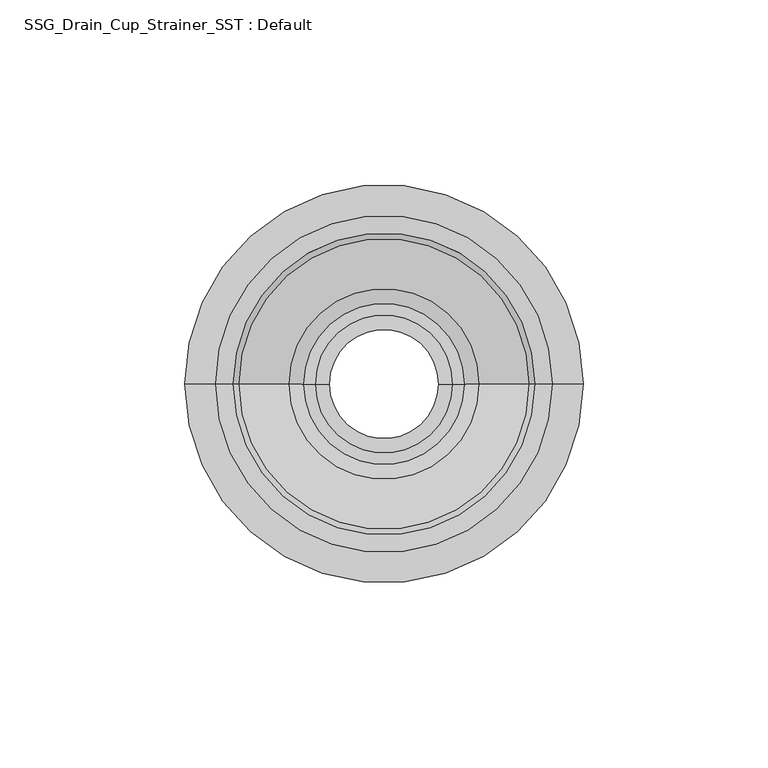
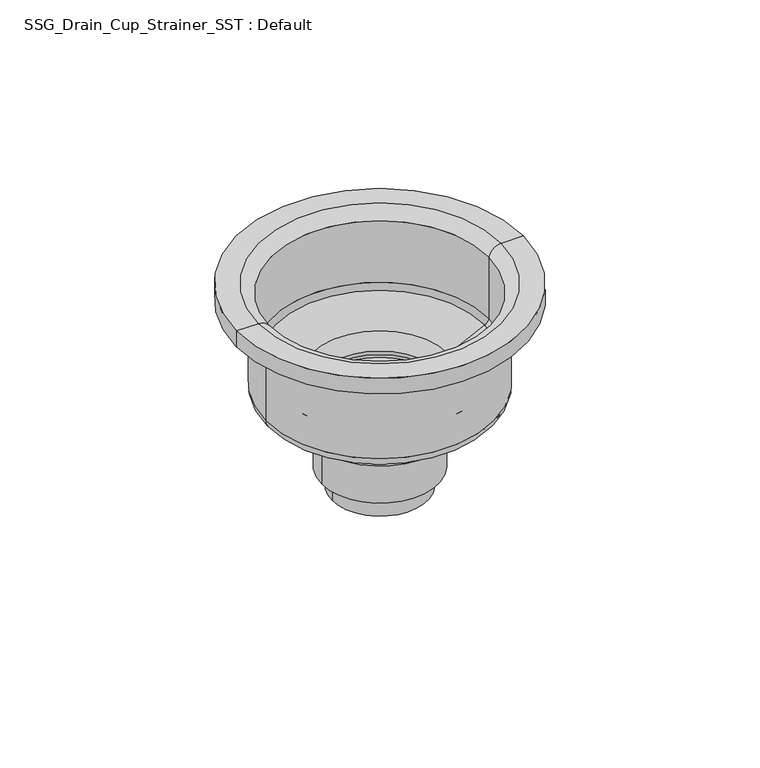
"""IFC4 building model written with IfcOpenShell, lengths in millimetres: flow terminal geometry, SSG_Drain_Cup_Strainer_SST : Default."""

from ifc_helpers import new_model, si_unit, point, frame, origin, place, context, project, spatial, polyline, circle_curve, ellipse_curve, trimmed, source, transform, mapped, element, save
from ifc_brep_helpers import plane_surface, cylinder_surface, revolved_surface, advanced_brep


def ssg_drain_cup_strainer_sst_default_97fc0a7e(model_context):
    return source(origin(), model_context, "Body", "AdvancedBrep", [
        advanced_brep(
        [(-53.8461499, 0.0, -149.6468631), (53.8461499, 0.0, -149.6468631), (53.8461499, 0.0, -155.8928957), (-53.8461499, 0.0, -155.8928957), (-45.6201532, 0.0, -149.6468631), (45.6201532, 0.0, -149.6468631), (-40.9039151, 0.0, -153.3759816), (40.9039151, 0.0, -153.3759816), (-40.9039151, 0.0, -177.8346117), (40.9039151, 0.0, -177.8346117), (-39.3309117, 0.0, -179.8842938), (39.3309117, 0.0, -179.8842938), (-25.7680813, 0.0, -186.4993282), (25.7680813, 0.0, -186.4993282), (-21.8196029, 0.0, -191.7639661), (21.8196029, 0.0, -191.7639661), (-40.0303474, 0.0, -193.1664988), (40.0303474, 0.0, -193.1664988), (31.8617554, 0.0, -193.1664988), (-31.8617554, 0.0, -193.1664988), (-42.8625, 0.0, -189.2413271), (42.8625, 0.0, -189.2413271), (-42.8625, 0.0, -155.8928957), (42.8625, 0.0, -155.8928957), (-21.8196029, 0.0, -193.1664988), (21.8196029, 0.0, -193.1664988), (-21.8196029, 0.0, -194.2053454), (21.8196029, 0.0, -194.2053454), (-18.6446029, 0.0, -194.2053454), (18.6446029, 0.0, -194.2053454), (-18.6446029, 0.0, -201.1455416), (18.6446029, 0.0, -201.1455416), (-18.6446029, 0.0, -218.4679678), (18.6446029, 0.0, -218.4679678), (-14.7920705, 0.0, -218.4679678), (14.7920705, 0.0, -218.4679678), (-14.7920705, 0.0, -229.5231197), (14.7920705, 0.0, -229.5231197), (-17.9670705, 0.0, -229.5231197), (17.9670705, 0.0, -229.5231197), (-17.9670705, 0.0, -221.6429678), (17.9670705, 0.0, -221.6429678), (-21.8196029, 0.0, -221.6429678), (21.8196029, 0.0, -221.6429678), (-21.8196029, 0.0, -204.3205416), (21.8196029, 0.0, -204.3205416), (-25.5117554, 0.0, -204.3205416), (25.5117554, 0.0, -204.3205416), (-25.5117554, 0.0, -197.9705416), (25.5117554, 0.0, -197.9705416), (-31.8617554, 0.0, -197.9705416), (31.8617554, 0.0, -197.9705416)],
        [
            (0, 1, circle_curve(frame((0.0, 0.0, -149.6468631), z_axis=(0.0, 0.0, -1.0), x_axis=(1.0, 0.0, 0.0)), 53.8461499)),
            (1, 2),
            (2, 3, circle_curve(frame((0.0, 0.0, -155.8928957), z_axis=(0.0, 0.0, 1.0), x_axis=(1.0, 0.0, 0.0)), 53.8461499)),
            (3, 0),
            (1, 0, circle_curve(frame((0.0, 0.0, -149.6468631), z_axis=(0.0, 0.0, -1.0), x_axis=(1.0, 0.0, 0.0)), 53.8461499)),
            (3, 2, circle_curve(frame((0.0, 0.0, -155.8928957), z_axis=(0.0, 0.0, 1.0), x_axis=(1.0, 0.0, 0.0)), 53.8461499)),
            (4, 5, circle_curve(frame((0.0, 0.0, -149.6468631), z_axis=(0.0, 0.0, -1.0), x_axis=(1.0, 0.0, 0.0)), 45.6201532)),
            (5, 1),
            (0, 4),
            (5, 4, circle_curve(frame((0.0, 0.0, -149.6468631), z_axis=(0.0, 0.0, -1.0), x_axis=(1.0, 0.0, 0.0)), 45.6201532)),
            (6, 7, circle_curve(frame((0.0, 0.0, -153.3759816), z_axis=(0.0, 0.0, -1.0), x_axis=(1.0, 0.0, 0.0)), 40.9039151)),
            (7, 5, circle_curve(frame((45.6201532, 0.0, -154.4937494), z_axis=(0.0, 1.0, 0.0), x_axis=(1.0, 0.0, 0.0)), 4.8468863)),
            (4, 6, circle_curve(frame((-45.6201532, 0.0, -154.4937494), z_axis=(0.0, 1.0, 0.0), x_axis=(-1.0, 0.0, 0.0)), 4.8468863)),
            (7, 6, circle_curve(frame((0.0, 0.0, -153.3759816), z_axis=(0.0, 0.0, -1.0), x_axis=(1.0, 0.0, 0.0)), 40.9039151)),
            (8, 9, circle_curve(frame((0.0, 0.0, -177.8346117), z_axis=(0.0, 0.0, -1.0), x_axis=(1.0, 0.0, 0.0)), 40.9039151)),
            (9, 7),
            (6, 8),
            (9, 8, circle_curve(frame((0.0, 0.0, -177.8346117), z_axis=(0.0, 0.0, -1.0), x_axis=(1.0, 0.0, 0.0)), 40.9039151)),
            (10, 11, circle_curve(frame((0.0, 0.0, -179.8842938), z_axis=(0.0, 0.0, -1.0), x_axis=(1.0, 0.0, 0.0)), 39.3309117)),
            (11, 9, circle_curve(frame((38.7820074, 0.0, -177.8346117), z_axis=(0.0, -1.0, 0.0), x_axis=(1.0, 0.0, 0.0)), 2.1219078)),
            (8, 10, circle_curve(frame((-38.7820074, 0.0, -177.8346117), z_axis=(0.0, -1.0, 0.0), x_axis=(-1.0, 0.0, 0.0)), 2.1219078)),
            (11, 10, circle_curve(frame((0.0, 0.0, -179.8842938), z_axis=(0.0, 0.0, -1.0), x_axis=(1.0, 0.0, 0.0)), 39.3309117)),
            (12, 13, circle_curve(frame((0.0, 0.0, -186.4993282), z_axis=(0.0, 0.0, -1.0), x_axis=(1.0, 0.0, 0.0)), 25.7680813)),
            (13, 11),
            (10, 12),
            (13, 12, circle_curve(frame((0.0, 0.0, -186.4993282), z_axis=(0.0, 0.0, -1.0), x_axis=(1.0, 0.0, 0.0)), 25.7680813)),
            (14, 15, circle_curve(frame((0.0, 0.0, -191.7639661), z_axis=(0.0, 0.0, -1.0), x_axis=(1.0, 0.0, 0.0)), 21.8196029)),
            (15, 13, circle_curve(frame((28.9311868, 0.0, -192.9846557), z_axis=(0.0, 1.0, 0.0), x_axis=(1.0, 0.0, 0.0)), 7.215588)),
            (12, 14, circle_curve(frame((-28.9311868, 0.0, -192.9846557), z_axis=(0.0, 1.0, 0.0), x_axis=(-1.0, 0.0, 0.0)), 7.215588)),
            (15, 14, circle_curve(frame((0.0, 0.0, -191.7639661), z_axis=(0.0, 0.0, -1.0), x_axis=(1.0, 0.0, 0.0)), 21.8196029)),
            (16, 17, circle_curve(frame((0.0, 0.0, -193.1664988), z_axis=(0.0, 0.0, -1.0), x_axis=(1.0, 0.0, 0.0)), 40.0303474)),
            (17, 18),
            (18, 19, circle_curve(frame((0.0, 0.0, -193.1664988), z_axis=(0.0, 0.0, 1.0), x_axis=(1.0, 0.0, 0.0)), 31.8617554)),
            (19, 16),
            (17, 16, circle_curve(frame((0.0, 0.0, -193.1664988), z_axis=(0.0, 0.0, -1.0), x_axis=(1.0, 0.0, 0.0)), 40.0303474)),
            (19, 18, circle_curve(frame((0.0, 0.0, -193.1664988), z_axis=(0.0, 0.0, 1.0), x_axis=(1.0, 0.0, 0.0)), 31.8617554)),
            (20, 21, circle_curve(frame((0.0, 0.0, -189.2413271), z_axis=(0.0, 0.0, -1.0), x_axis=(1.0, 0.0, 0.0)), 42.8625)),
            (21, 17, circle_curve(frame((38.7264126, 0.0, -189.2413271), z_axis=(0.0, 1.0, 0.0), x_axis=(1.0, 0.0, 0.0)), 4.1360874)),
            (16, 20, circle_curve(frame((-38.7264126, 0.0, -189.2413271), z_axis=(0.0, 1.0, 0.0), x_axis=(-1.0, 0.0, 0.0)), 4.1360874)),
            (21, 20, circle_curve(frame((0.0, 0.0, -189.2413271), z_axis=(0.0, 0.0, -1.0), x_axis=(1.0, 0.0, 0.0)), 42.8625)),
            (22, 23, circle_curve(frame((0.0, 0.0, -155.8928957), z_axis=(0.0, 0.0, -1.0), x_axis=(1.0, 0.0, 0.0)), 42.8625)),
            (23, 21),
            (20, 22),
            (23, 22, circle_curve(frame((0.0, 0.0, -155.8928957), z_axis=(0.0, 0.0, -1.0), x_axis=(1.0, 0.0, 0.0)), 42.8625)),
            (2, 23),
            (22, 3),
            (24, 25, circle_curve(frame((0.0, 0.0, -193.1664988), z_axis=(0.0, 0.0, -1.0), x_axis=(1.0, 0.0, 0.0)), 21.8196029)),
            (25, 15),
            (14, 24),
            (25, 24, circle_curve(frame((0.0, 0.0, -193.1664988), z_axis=(0.0, 0.0, -1.0), x_axis=(1.0, 0.0, 0.0)), 21.8196029)),
            (26, 27, circle_curve(frame((0.0, 0.0, -194.2053454), z_axis=(0.0, 0.0, -1.0), x_axis=(1.0, 0.0, 0.0)), 21.8196029)),
            (27, 25),
            (24, 26),
            (27, 26, circle_curve(frame((0.0, 0.0, -194.2053454), z_axis=(0.0, 0.0, -1.0), x_axis=(1.0, 0.0, 0.0)), 21.8196029)),
            (28, 29, circle_curve(frame((0.0, 0.0, -194.2053454), z_axis=(0.0, 0.0, -1.0), x_axis=(1.0, 0.0, 0.0)), 18.6446029)),
            (29, 27),
            (26, 28),
            (29, 28, circle_curve(frame((0.0, 0.0, -194.2053454), z_axis=(0.0, 0.0, -1.0), x_axis=(1.0, 0.0, 0.0)), 18.6446029)),
            (30, 31, circle_curve(frame((0.0, 0.0, -201.1455416), z_axis=(0.0, 0.0, -1.0), x_axis=(1.0, 0.0, 0.0)), 18.6446029)),
            (31, 29),
            (28, 30),
            (31, 30, circle_curve(frame((0.0, 0.0, -201.1455416), z_axis=(0.0, 0.0, -1.0), x_axis=(1.0, 0.0, 0.0)), 18.6446029)),
            (32, 33, circle_curve(frame((0.0, 0.0, -218.4679678), z_axis=(0.0, 0.0, -1.0), x_axis=(1.0, 0.0, 0.0)), 18.6446029)),
            (33, 31),
            (30, 32),
            (33, 32, circle_curve(frame((0.0, 0.0, -218.4679678), z_axis=(0.0, 0.0, -1.0), x_axis=(1.0, 0.0, 0.0)), 18.6446029)),
            (34, 35, circle_curve(frame((0.0, 0.0, -218.4679678), z_axis=(0.0, 0.0, -1.0), x_axis=(1.0, 0.0, 0.0)), 14.7920705)),
            (35, 33),
            (32, 34),
            (35, 34, circle_curve(frame((0.0, 0.0, -218.4679678), z_axis=(0.0, 0.0, -1.0), x_axis=(1.0, 0.0, 0.0)), 14.7920705)),
            (36, 37, circle_curve(frame((0.0, 0.0, -229.5231197), z_axis=(0.0, 0.0, -1.0), x_axis=(1.0, 0.0, 0.0)), 14.7920705)),
            (37, 35),
            (34, 36),
            (37, 36, circle_curve(frame((0.0, 0.0, -229.5231197), z_axis=(0.0, 0.0, -1.0), x_axis=(1.0, 0.0, 0.0)), 14.7920705)),
            (38, 39, circle_curve(frame((0.0, 0.0, -229.5231197), z_axis=(0.0, 0.0, -1.0), x_axis=(1.0, 0.0, 0.0)), 17.9670705)),
            (39, 37),
            (36, 38),
            (39, 38, circle_curve(frame((0.0, 0.0, -229.5231197), z_axis=(0.0, 0.0, -1.0), x_axis=(1.0, 0.0, 0.0)), 17.9670705)),
            (40, 41, circle_curve(frame((0.0, 0.0, -221.6429678), z_axis=(0.0, 0.0, -1.0), x_axis=(1.0, 0.0, 0.0)), 17.9670705)),
            (41, 39),
            (38, 40),
            (41, 40, circle_curve(frame((0.0, 0.0, -221.6429678), z_axis=(0.0, 0.0, -1.0), x_axis=(1.0, 0.0, 0.0)), 17.9670705)),
            (42, 43, circle_curve(frame((0.0, 0.0, -221.6429678), z_axis=(0.0, 0.0, -1.0), x_axis=(1.0, 0.0, 0.0)), 21.8196029)),
            (43, 41),
            (40, 42),
            (43, 42, circle_curve(frame((0.0, 0.0, -221.6429678), z_axis=(0.0, 0.0, -1.0), x_axis=(1.0, 0.0, 0.0)), 21.8196029)),
            (44, 45, circle_curve(frame((0.0, 0.0, -204.3205416), z_axis=(0.0, 0.0, -1.0), x_axis=(1.0, 0.0, 0.0)), 21.8196029)),
            (45, 43),
            (42, 44),
            (45, 44, circle_curve(frame((0.0, 0.0, -204.3205416), z_axis=(0.0, 0.0, -1.0), x_axis=(1.0, 0.0, 0.0)), 21.8196029)),
            (46, 47, circle_curve(frame((0.0, 0.0, -204.3205416), z_axis=(0.0, 0.0, -1.0), x_axis=(1.0, 0.0, 0.0)), 25.5117554)),
            (47, 45),
            (44, 46),
            (47, 46, circle_curve(frame((0.0, 0.0, -204.3205416), z_axis=(0.0, 0.0, -1.0), x_axis=(1.0, 0.0, 0.0)), 25.5117554)),
            (48, 49, circle_curve(frame((0.0, 0.0, -197.9705416), z_axis=(0.0, 0.0, -1.0), x_axis=(1.0, 0.0, 0.0)), 25.5117554)),
            (49, 47),
            (46, 48),
            (49, 48, circle_curve(frame((0.0, 0.0, -197.9705416), z_axis=(0.0, 0.0, -1.0), x_axis=(1.0, 0.0, 0.0)), 25.5117554)),
            (50, 51, circle_curve(frame((0.0, 0.0, -197.9705416), z_axis=(0.0, 0.0, -1.0), x_axis=(1.0, 0.0, 0.0)), 31.8617554)),
            (51, 49),
            (48, 50),
            (51, 50, circle_curve(frame((0.0, 0.0, -197.9705416), z_axis=(0.0, 0.0, -1.0), x_axis=(1.0, 0.0, 0.0)), 31.8617554)),
            (18, 51),
            (50, 19),
        ],
        [
            cylinder_surface(frame((0.0, 0.0, -132.4271101), z_axis=(0.0, 0.0, 1.0), x_axis=(1.0, 0.0, 0.0)), 53.8461499),
            plane_surface(frame((0.0, 0.0, -149.6468631), z_axis=(0.0, 0.0, 1.0), x_axis=(1.0, 0.0, 0.0))),
            revolved_surface(trimmed(ellipse_curve(frame((45.6201532, 0.0, -154.4937494), z_axis=(0.0, -1.0, 0.0), x_axis=(1.0, 0.0, 0.0)), 4.8468863, 4.8468863), [point((45.6201532, 0.0, -149.6468631))], [point((40.9039151, 0.0, -153.3759816))], True, "CARTESIAN"), (0.0, 0.0, -132.4271101), (0.0, 0.0, 1.0)),
            revolved_surface(polyline([(40.9039151, 0.0, -153.3759816), (40.9039151, 0.0, -177.8346117)]), (0.0, 0.0, -132.4271101), (0.0, 0.0, 1.0)),
            revolved_surface(trimmed(ellipse_curve(frame((38.7820074, 0.0, -177.8346117), z_axis=(0.0, 1.0, 0.0), x_axis=(1.0, 0.0, 0.0)), 2.1219078, 2.1219078), [point((40.9039151, 0.0, -177.8346117))], [point((39.3309117, 0.0, -179.8842938))], True, "CARTESIAN"), (0.0, 0.0, -132.4271101), (0.0, 0.0, 1.0)),
            revolved_surface(polyline([(39.3309117, 0.0, -179.8842938), (25.7680813, 0.0, -186.4993282)]), (0.0, 0.0, -132.4271101), (0.0, 0.0, 1.0)),
            revolved_surface(trimmed(ellipse_curve(frame((28.9311868, 0.0, -192.9846557), z_axis=(0.0, -1.0, 0.0), x_axis=(1.0, 0.0, 0.0)), 7.215588, 7.215588), [point((25.7680813, 0.0, -186.4993282))], [point((21.8196029, 0.0, -191.7639661))], True, "CARTESIAN"), (0.0, 0.0, -132.4271101), (0.0, 0.0, 1.0)),
            plane_surface(frame((0.0, 0.0, -193.1664988), z_axis=(0.0, 0.0, -1.0), x_axis=(1.0, 0.0, 0.0))),
            revolved_surface(trimmed(ellipse_curve(frame((38.7264126, 0.0, -189.2413271), z_axis=(0.0, -1.0, 0.0), x_axis=(1.0, 0.0, 0.0)), 4.1360874, 4.1360874), [point((40.0303474, 0.0, -193.1664988))], [point((42.8625, 0.0, -189.2413271))], True, "CARTESIAN"), (0.0, 0.0, -132.4271101), (0.0, 0.0, 1.0)),
            cylinder_surface(frame((0.0, 0.0, -132.4271101), z_axis=(0.0, 0.0, 1.0), x_axis=(1.0, 0.0, 0.0)), 42.8625),
            plane_surface(frame((0.0, 0.0, -155.8928957), z_axis=(0.0, 0.0, -1.0), x_axis=(1.0, 0.0, 0.0))),
            revolved_surface(polyline([(21.8196029, 0.0, -191.7639661), (21.8196029, 0.0, -193.1664988)]), (0.0, 0.0, -132.4271101), (0.0, 0.0, 1.0)),
            revolved_surface(polyline([(21.8196029, 0.0, -193.1664988), (21.8196029, 0.0, -194.2053454)]), (0.0, 0.0, -132.4271101), (0.0, 0.0, 1.0)),
            plane_surface(frame((0.0, 0.0, -194.2053454), z_axis=(0.0, 0.0, 1.0), x_axis=(1.0, 0.0, 0.0))),
            revolved_surface(polyline([(18.6446029, 0.0, -194.2053454), (18.6446029, 0.0, -201.1455416)]), (0.0, 0.0, -132.4271101), (0.0, 0.0, 1.0)),
            revolved_surface(polyline([(18.6446029, 0.0, -201.1455416), (18.6446029, 0.0, -218.4679678)]), (0.0, 0.0, -132.4271101), (0.0, 0.0, 1.0)),
            plane_surface(frame((0.0, 0.0, -218.4679678), z_axis=(0.0, 0.0, 1.0), x_axis=(1.0, 0.0, 0.0))),
            revolved_surface(polyline([(14.7920705, 0.0, -218.4679678), (14.7920705, 0.0, -229.5231197)]), (0.0, 0.0, -132.4271101), (0.0, 0.0, 1.0)),
            plane_surface(frame((0.0, 0.0, -229.5231197), z_axis=(0.0, 0.0, -1.0), x_axis=(1.0, 0.0, 0.0))),
            cylinder_surface(frame((0.0, 0.0, -132.4271101), z_axis=(0.0, 0.0, 1.0), x_axis=(1.0, 0.0, 0.0)), 17.9670705),
            plane_surface(frame((0.0, 0.0, -221.6429678), z_axis=(0.0, 0.0, -1.0), x_axis=(1.0, 0.0, 0.0))),
            cylinder_surface(frame((0.0, 0.0, -132.4271101), z_axis=(0.0, 0.0, 1.0), x_axis=(1.0, 0.0, 0.0)), 21.8196029),
            plane_surface(frame((0.0, 0.0, -204.3205416), z_axis=(0.0, 0.0, -1.0), x_axis=(1.0, 0.0, 0.0))),
            cylinder_surface(frame((0.0, 0.0, -132.4271101), z_axis=(0.0, 0.0, 1.0), x_axis=(1.0, 0.0, 0.0)), 25.5117554),
            plane_surface(frame((0.0, 0.0, -197.9705416), z_axis=(0.0, 0.0, -1.0), x_axis=(1.0, 0.0, 0.0))),
            cylinder_surface(frame((0.0, 0.0, -132.4271101), z_axis=(0.0, 0.0, 1.0), x_axis=(1.0, 0.0, 0.0)), 31.8617554),
        ],
        [
            (0, [[1, 2, 3, 4]]),
            (0, [[5, -4, 6, -2]]),
            (1, [[7, 8, -1, 9]]),
            (1, [[10, -9, -5, -8]]),
            (2, [[11, 12, -7, 13]]),
            (2, [[14, -13, -10, -12]]),
            (3, [[15, 16, -11, 17]]),
            (3, [[18, -17, -14, -16]]),
            (4, [[19, 20, -15, 21]]),
            (4, [[22, -21, -18, -20]]),
            (5, [[23, 24, -19, 25]]),
            (5, [[26, -25, -22, -24]]),
            (6, [[27, 28, -23, 29]]),
            (6, [[30, -29, -26, -28]]),
            (7, [[31, 32, 33, 34]]),
            (7, [[35, -34, 36, -32]]),
            (8, [[37, 38, -31, 39]]),
            (8, [[40, -39, -35, -38]]),
            (9, [[41, 42, -37, 43]]),
            (9, [[44, -43, -40, -42]]),
            (10, [[-3, 45, -41, 46]]),
            (10, [[-6, -46, -44, -45]]),
            (11, [[47, 48, -27, 49]]),
            (11, [[50, -49, -30, -48]]),
            (12, [[51, 52, -47, 53]]),
            (12, [[54, -53, -50, -52]]),
            (13, [[55, 56, -51, 57]]),
            (13, [[58, -57, -54, -56]]),
            (14, [[59, 60, -55, 61]]),
            (14, [[62, -61, -58, -60]]),
            (15, [[63, 64, -59, 65]]),
            (15, [[66, -65, -62, -64]]),
            (16, [[67, 68, -63, 69]]),
            (16, [[70, -69, -66, -68]]),
            (17, [[71, 72, -67, 73]]),
            (17, [[74, -73, -70, -72]]),
            (18, [[75, 76, -71, 77]]),
            (18, [[78, -77, -74, -76]]),
            (19, [[79, 80, -75, 81]]),
            (19, [[82, -81, -78, -80]]),
            (20, [[83, 84, -79, 85]]),
            (20, [[86, -85, -82, -84]]),
            (21, [[87, 88, -83, 89]]),
            (21, [[90, -89, -86, -88]]),
            (22, [[91, 92, -87, 93]]),
            (22, [[94, -93, -90, -92]]),
            (23, [[95, 96, -91, 97]]),
            (23, [[98, -97, -94, -96]]),
            (24, [[99, 100, -95, 101]]),
            (24, [[102, -101, -98, -100]]),
            (25, [[-33, 103, -99, 104]]),
            (25, [[-36, -104, -102, -103]]),
        ],
    ),
    ])


if __name__ == "__main__":
    model = new_model("IFC4")
    model_context = context("Model", 3, world=origin())
    ifc_project = project(units=[si_unit("LENGTHUNIT", "METRE", prefix="MILLI")], contexts=[model_context])
    site = spatial("IfcSite", under=ifc_project)
    building = spatial("IfcBuilding", under=site)
    placement = place(None, origin())
    ssg_drain_cup_strainer_sst_default_shape = ssg_drain_cup_strainer_sst_default_97fc0a7e(model_context)
    element("IfcFlowTerminal", 1, ObjectType="SSG_Drain_Cup_Strainer_SST : Default", at=placement, inside=building, context=model_context, shape_type="MappedRepresentation", body=[
        mapped(ssg_drain_cup_strainer_sst_default_shape, transform((0.0, 0.0, 0.0), x_axis=(1.0, 0.0, 0.0), y_axis=(0.0, 1.0, 0.0), z_axis=(0.0, 0.0, 1.0))),
    ])
    save(model, "model.ifc")
